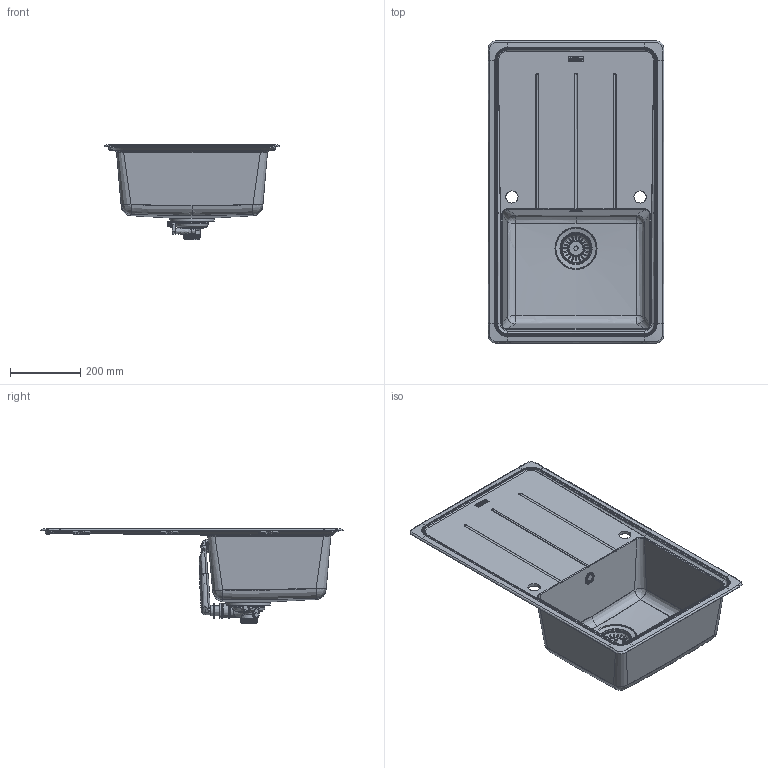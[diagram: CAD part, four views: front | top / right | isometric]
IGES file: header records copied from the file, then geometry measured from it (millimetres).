
Global section: file name: F:\_CONVERSIONE_CAD_2024_2025\_2024\03_3D kits new\Sinks\BASIS\114.0706.687 3D001_Sinks_Basis_BFG-611-86\3D001_Sinks_Basis_BFG-611-86.igs; native system: Rhinoceros ( May 17 2024 ); preprocessor: Trout Lake IGES 012 May 17 2024; date: 240626.132933; units: millimetre
Bounding box: 500 x 860 x 270.5 mm (x, y, z)
Surface area: 1435631.3 mm2 (no closed solid volume)
Topology: 0 solids, 0 shells, 2617 faces, 18247 edges, 18142 vertices
Faces by surface type: bspline 2617
